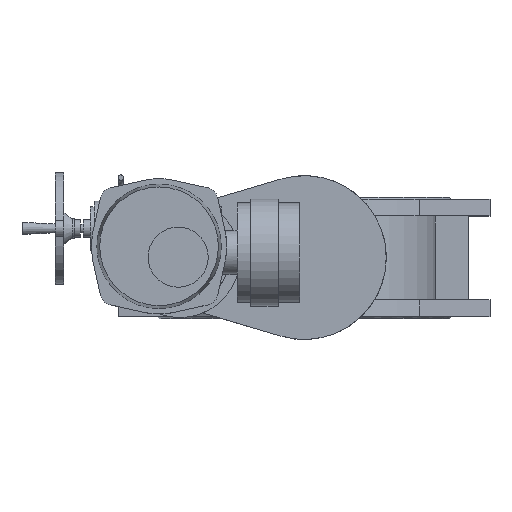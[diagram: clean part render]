
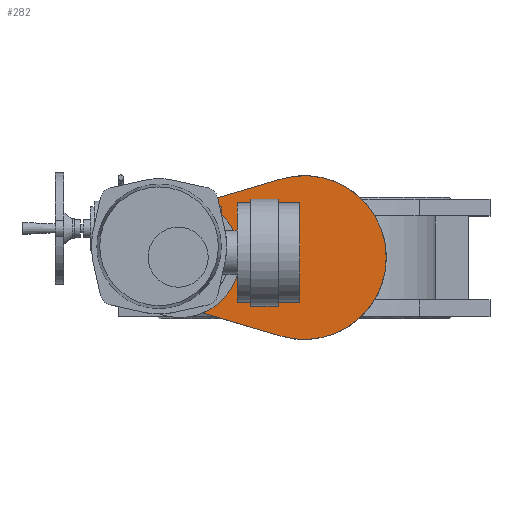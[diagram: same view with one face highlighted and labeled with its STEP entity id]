
A CAD part, top view. The second image highlights one B-rep face of the part: STEP entity #282.
In plain terms, the highlighted planar face has unit normal (0, 0, 1).
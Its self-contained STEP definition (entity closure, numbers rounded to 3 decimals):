
#282=ADVANCED_FACE('',(#3716),#3718,.F.);
#3716=FACE_BOUND('',#3717,.T.);
#3717=EDGE_LOOP('',(#6548,#6549,#6550,#6551,#6552));
#3718=PLANE('',#3719);
#3719=AXIS2_PLACEMENT_3D('',#3720,#3721,#3722);
#3720=CARTESIAN_POINT('',(-266.,20.,492.));
#3721=DIRECTION('',(0.,0.,-1.));
#3722=DIRECTION('',(-1.,0.,0.));
#6548=ORIENTED_EDGE('',*,*,#8637,.T.);
#6549=ORIENTED_EDGE('',*,*,#8638,.T.);
#6550=ORIENTED_EDGE('',*,*,#8639,.F.);
#6551=ORIENTED_EDGE('',*,*,#8609,.F.);
#6552=ORIENTED_EDGE('',*,*,#8640,.F.);
#8609=EDGE_CURVE('',#9701,#9702,#9703,.T.);
#8637=EDGE_CURVE('',#9757,#9758,#9759,.F.);
#8638=EDGE_CURVE('',#9758,#9760,#9761,.F.);
#8639=EDGE_CURVE('',#9702,#9760,#9762,.T.);
#8640=EDGE_CURVE('',#9757,#9701,#9763,.T.);
#9701=VERTEX_POINT('',#11617);
#9702=VERTEX_POINT('',#11618);
#9703=CIRCLE('',#11619,150.);
#9757=VERTEX_POINT('',#11933);
#9758=VERTEX_POINT('',#11934);
#9759=CIRCLE('',#11935,85.);
#9760=VERTEX_POINT('',#11939);
#9761=CIRCLE('',#11940,85.);
#9762=LINE('',#11944,#11945);
#9763=LINE('',#11947,#11948);
#11617=CARTESIAN_POINT('',(-42.763,143.775,492.));
#11618=CARTESIAN_POINT('',(-42.763,-143.775,492.));
#11619=AXIS2_PLACEMENT_3D('',#11620,#11621,#11622);
#11620=CARTESIAN_POINT('',(0.,0.,492.));
#11621=DIRECTION('',(0.,0.,-1.));
#11622=DIRECTION('',(-0.285,0.959,0.));
#11933=CARTESIAN_POINT('',(-252.232,81.473,492.));
#11934=CARTESIAN_POINT('',(-143.,0.,492.));
#11935=AXIS2_PLACEMENT_3D('',#11936,#11937,#11938);
#11936=CARTESIAN_POINT('',(-228.,0.,492.));
#11937=DIRECTION('',(0.,0.,1.));
#11938=DIRECTION('',(1.,0.,0.));
#11939=CARTESIAN_POINT('',(-252.232,-81.473,492.));
#11940=AXIS2_PLACEMENT_3D('',#11941,#11942,#11943);
#11941=CARTESIAN_POINT('',(-228.,0.,492.));
#11942=DIRECTION('',(0.,0.,1.));
#11943=DIRECTION('',(-0.285,-0.959,0.));
#11944=CARTESIAN_POINT('',(-42.763,-143.775,492.));
#11945=VECTOR('',#11946,1.);
#11946=DIRECTION('',(-0.959,0.285,0.));
#11947=CARTESIAN_POINT('',(-252.232,81.473,492.));
#11948=VECTOR('',#11949,1.);
#11949=DIRECTION('',(0.959,0.285,0.));
